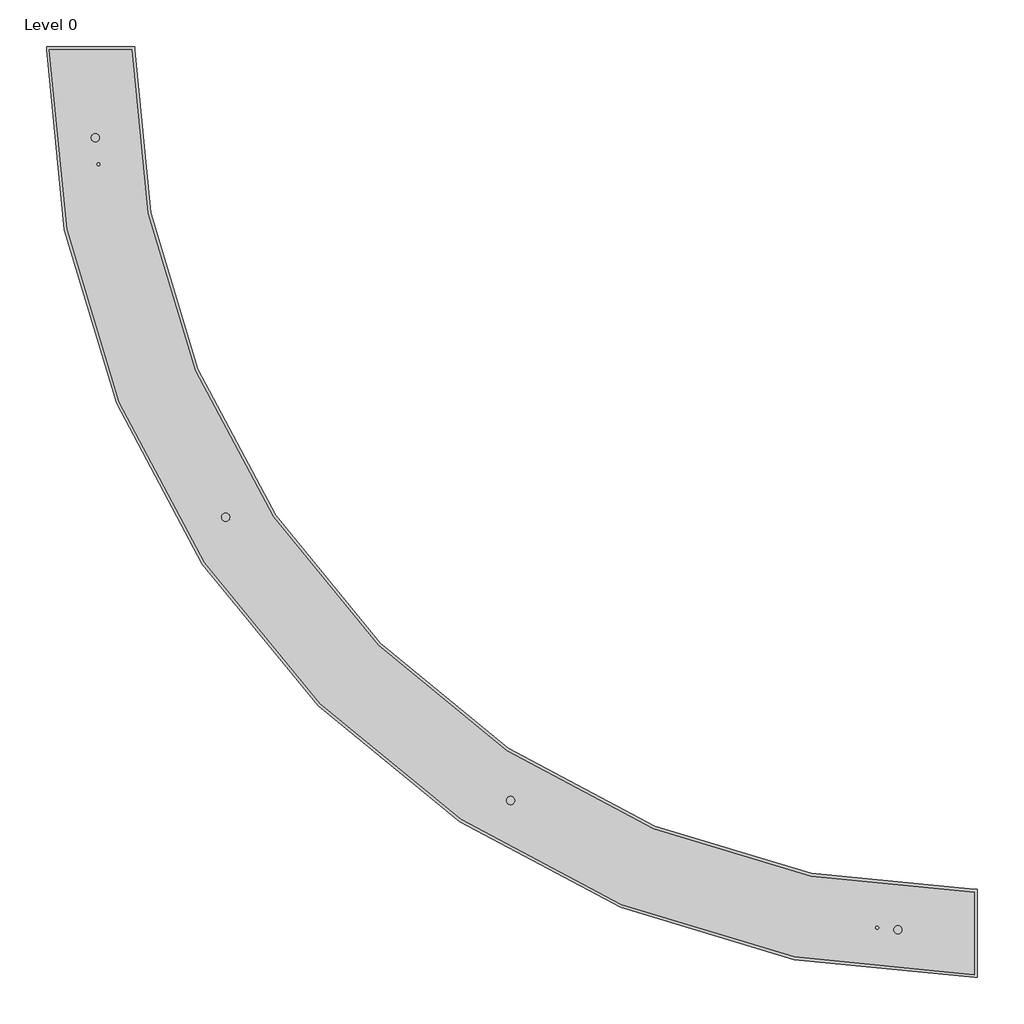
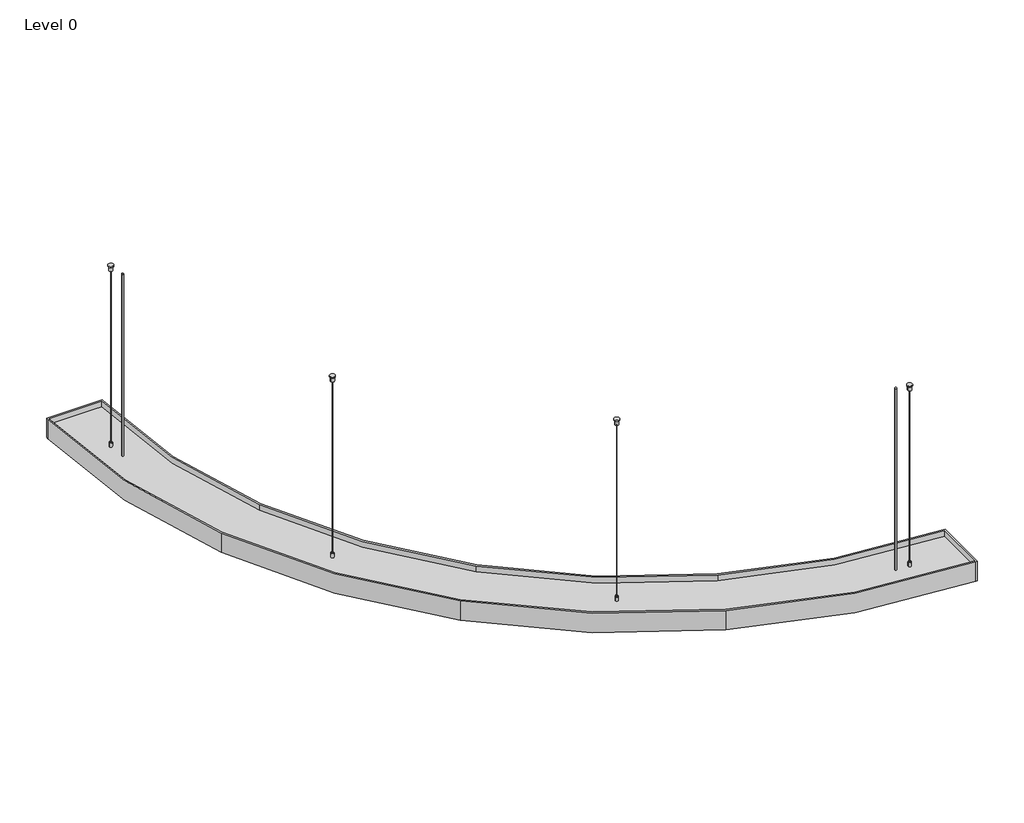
# One storey: 1 light fixture.
"""IFC4 building model written with IfcOpenShell, lengths in millimetres."""

from ifc_helpers import new_model, si_unit, origin, place, context, project, spatial, transform, mapped, element, save
from components import silver_anodized_3000_k_6320_lm_d5955773

model = new_model("IFC4")

# Units and contexts
model_context = context("Model", 3, world=origin())
ifc_project = project(units=[si_unit("LENGTHUNIT", "METRE", prefix="MILLI")], contexts=[model_context])

# Site, building, storey
site = spatial("IfcSite", under=ifc_project)
building = spatial("IfcBuilding", under=site)
storey = spatial("IfcBuildingStorey", under=building, Name="Level 0", Elevation=0.0)

# Light fixture
placement = place(None, origin())
silver_anodized_3000_k_6320_lm_shape = silver_anodized_3000_k_6320_lm_d5955773(model_context)
element("IfcLightFixture", 1, ObjectType="KLUŚ - MIFOR - MI-SNAKE-02 : Silver anodized - 3000 K - 6320 lm", at=placement, inside=storey, context=model_context, shape_type="MappedRepresentation", body=[
    mapped(silver_anodized_3000_k_6320_lm_shape, transform((0.0, 0.0, 555.0), x_axis=(1.0, 0.0, 0.0), y_axis=(0.0, -1.0, 0.0), z_axis=(0.0, 0.0, -1.0))),
])

save(model, "model.ifc")
